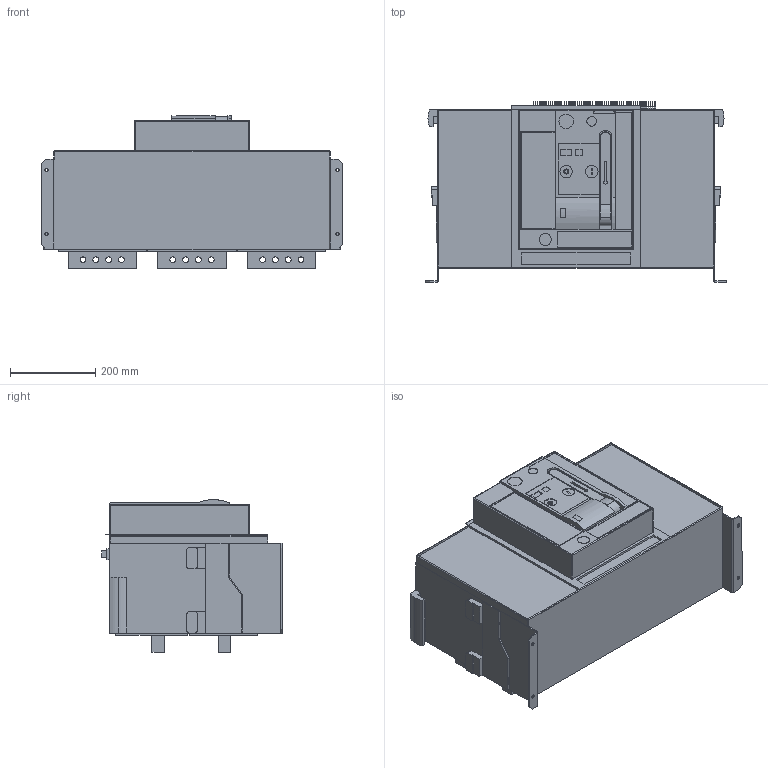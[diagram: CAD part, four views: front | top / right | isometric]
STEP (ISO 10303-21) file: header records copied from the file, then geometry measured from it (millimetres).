
FILE_DESCRIPTION (( 'STEP AP214' ), '1' );
FILE_NAME ('ARION_WL1350-___32.step', '2012-01-11T10:51:04', ( 'Radek Veselý' ), ( 'Siemens and Partners' ), 'SwSTEP 2.0', 'SolidWorks 2006303', '' );
FILE_SCHEMA (( 'AUTOMOTIVE_DESIGN' ));
Length unit declared in the file: millimetre
Products named in the file (1): ARION_WL1350-___32
Bounding box: 704 x 422.4 x 356.94 mm (x, y, z)
Volume: 63307112 mm3; surface area: 1499474 mm2
Topology: 4 solids, 4 shells, 1420 faces, 3531 edges, 2327 vertices
Faces by surface type: plane 1066, cylinder 342, sphere 8, torus 4
Entity records: 57618 total; most frequent: CARTESIAN_POINT 7319, ORIENTED_EDGE 7046, DIRECTION 7038, EDGE_CURVE 3523, VECTOR 2834, LINE 2834, VERTEX_POINT 2327, AXIS2_PLACEMENT_3D 2102
